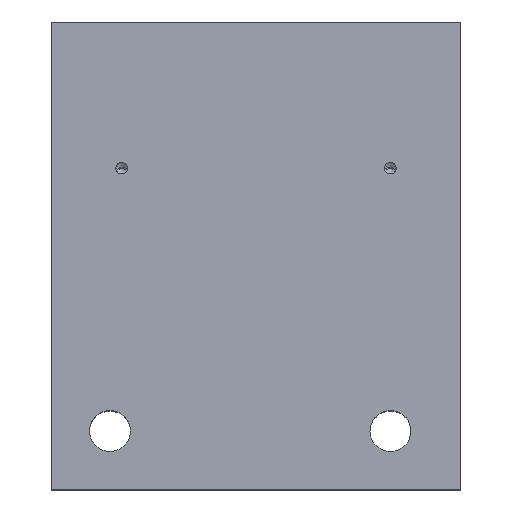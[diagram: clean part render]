
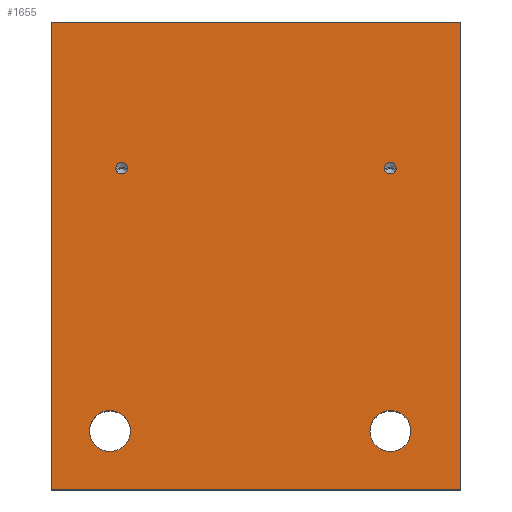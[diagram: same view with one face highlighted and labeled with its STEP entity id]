
A CAD part, top view. The second image highlights one B-rep face of the part: STEP entity #1655.
In plain terms, the highlighted planar face has unit normal (0, 0, 1).
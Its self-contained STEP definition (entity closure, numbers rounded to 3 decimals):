
#19=DIRECTION('',(0.,-1.,0.));
#20=VECTOR('',#19,80.);
#21=CARTESIAN_POINT('',(0.,0.,0.));
#22=LINE('',#21,#20);
#27=DIRECTION('',(-1.,0.,0.));
#28=VECTOR('',#27,70.);
#29=CARTESIAN_POINT('',(70.,0.,0.));
#30=LINE('',#29,#28);
#34=DIRECTION('',(0.,1.,0.));
#35=VECTOR('',#34,80.);
#36=CARTESIAN_POINT('',(70.,-80.,0.));
#37=LINE('',#36,#35);
#41=DIRECTION('',(1.,0.,0.));
#42=VECTOR('',#41,70.);
#43=CARTESIAN_POINT('',(0.,-80.,0.));
#44=LINE('',#43,#42);
#48=CARTESIAN_POINT('',(10.,-70.,0.));
#49=DIRECTION('',(0.,0.,1.));
#50=DIRECTION('',(-1.,0.,0.));
#51=AXIS2_PLACEMENT_3D('',#48,#49,#50);
#56=CARTESIAN_POINT('',(10.,-70.,0.));
#57=DIRECTION('',(0.,0.,1.));
#58=DIRECTION('',(1.,0.,0.));
#59=AXIS2_PLACEMENT_3D('',#56,#57,#58);
#64=CARTESIAN_POINT('',(58.,-70.,0.));
#65=DIRECTION('',(0.,0.,1.));
#66=DIRECTION('',(-1.,0.,0.));
#67=AXIS2_PLACEMENT_3D('',#64,#65,#66);
#72=CARTESIAN_POINT('',(58.,-70.,0.));
#73=DIRECTION('',(0.,0.,1.));
#74=DIRECTION('',(1.,0.,0.));
#75=AXIS2_PLACEMENT_3D('',#72,#73,#74);
#80=CARTESIAN_POINT('',(12.,-25.,0.));
#81=DIRECTION('',(0.,0.,1.));
#82=DIRECTION('',(-1.,0.,0.));
#83=AXIS2_PLACEMENT_3D('',#80,#81,#82);
#88=CARTESIAN_POINT('',(12.,-25.,0.));
#89=DIRECTION('',(0.,0.,1.));
#90=DIRECTION('',(1.,0.,0.));
#91=AXIS2_PLACEMENT_3D('',#88,#89,#90);
#96=CARTESIAN_POINT('',(58.,-25.,0.));
#97=DIRECTION('',(0.,0.,1.));
#98=DIRECTION('',(-1.,0.,0.));
#99=AXIS2_PLACEMENT_3D('',#96,#97,#98);
#104=CARTESIAN_POINT('',(58.,-25.,0.));
#105=DIRECTION('',(0.,0.,1.));
#106=DIRECTION('',(1.,0.,0.));
#107=AXIS2_PLACEMENT_3D('',#104,#105,#106);
#1432=CARTESIAN_POINT('',(0.,0.,0.));
#1433=CARTESIAN_POINT('',(0.,-80.,0.));
#1434=VERTEX_POINT('',#1432);
#1435=VERTEX_POINT('',#1433);
#1436=CARTESIAN_POINT('',(70.,-80.,0.));
#1437=VERTEX_POINT('',#1436);
#1438=CARTESIAN_POINT('',(70.,0.,0.));
#1439=VERTEX_POINT('',#1438);
#1449=CARTESIAN_POINT('',(6.5,-70.,0.));
#1451=VERTEX_POINT('',#1449);
#1453=CARTESIAN_POINT('',(13.5,-70.,0.));
#1455=VERTEX_POINT('',#1453);
#1462=CARTESIAN_POINT('',(11.,-25.,0.));
#1463=VERTEX_POINT('',#1462);
#1464=CARTESIAN_POINT('',(13.,-25.,0.));
#1465=VERTEX_POINT('',#1464);
#1512=CARTESIAN_POINT('',(57.,-25.,0.));
#1513=VERTEX_POINT('',#1512);
#1514=CARTESIAN_POINT('',(59.,-25.,0.));
#1515=VERTEX_POINT('',#1514);
#1517=CARTESIAN_POINT('',(54.5,-70.,0.));
#1519=VERTEX_POINT('',#1517);
#1521=CARTESIAN_POINT('',(61.5,-70.,0.));
#1523=VERTEX_POINT('',#1521);
#1616=CARTESIAN_POINT('',(0.,0.,0.));
#1617=DIRECTION('',(0.,0.,1.));
#1618=DIRECTION('',(1.,0.,0.));
#1619=AXIS2_PLACEMENT_3D('',#1616,#1617,#1618);
#1620=PLANE('',#1619);
#1622=ORIENTED_EDGE('',*,*,#1621,.F.);
#1624=ORIENTED_EDGE('',*,*,#1623,.F.);
#1626=ORIENTED_EDGE('',*,*,#1625,.F.);
#1628=ORIENTED_EDGE('',*,*,#1627,.F.);
#1629=EDGE_LOOP('',(#1622,#1624,#1626,#1628));
#1630=FACE_OUTER_BOUND('',#1629,.F.);
#1632=ORIENTED_EDGE('',*,*,#1631,.T.);
#1634=ORIENTED_EDGE('',*,*,#1633,.T.);
#1635=EDGE_LOOP('',(#1632,#1634));
#1636=FACE_BOUND('',#1635,.F.);
#1638=ORIENTED_EDGE('',*,*,#1637,.T.);
#1640=ORIENTED_EDGE('',*,*,#1639,.T.);
#1641=EDGE_LOOP('',(#1638,#1640));
#1642=FACE_BOUND('',#1641,.F.);
#1644=ORIENTED_EDGE('',*,*,#1643,.T.);
#1646=ORIENTED_EDGE('',*,*,#1645,.T.);
#1647=EDGE_LOOP('',(#1644,#1646));
#1648=FACE_BOUND('',#1647,.F.);
#1650=ORIENTED_EDGE('',*,*,#1649,.T.);
#1652=ORIENTED_EDGE('',*,*,#1651,.T.);
#1653=EDGE_LOOP('',(#1650,#1652));
#1654=FACE_BOUND('',#1653,.F.);
#52=CIRCLE('',#51,3.5);
#60=CIRCLE('',#59,3.5);
#68=CIRCLE('',#67,3.5);
#76=CIRCLE('',#75,3.5);
#84=CIRCLE('',#83,1.);
#92=CIRCLE('',#91,1.);
#100=CIRCLE('',#99,1.);
#108=CIRCLE('',#107,1.);
#1621=EDGE_CURVE('',#1434,#1435,#22,.T.);
#1623=EDGE_CURVE('',#1439,#1434,#30,.T.);
#1625=EDGE_CURVE('',#1437,#1439,#37,.T.);
#1627=EDGE_CURVE('',#1435,#1437,#44,.T.);
#1631=EDGE_CURVE('',#1451,#1455,#52,.T.);
#1633=EDGE_CURVE('',#1455,#1451,#60,.T.);
#1637=EDGE_CURVE('',#1519,#1523,#68,.T.);
#1639=EDGE_CURVE('',#1523,#1519,#76,.T.);
#1643=EDGE_CURVE('',#1463,#1465,#84,.T.);
#1645=EDGE_CURVE('',#1465,#1463,#92,.T.);
#1649=EDGE_CURVE('',#1513,#1515,#100,.T.);
#1651=EDGE_CURVE('',#1515,#1513,#108,.T.);
#1655=ADVANCED_FACE('',(#1630,#1636,#1642,#1648,#1654),#1620,.T.);
